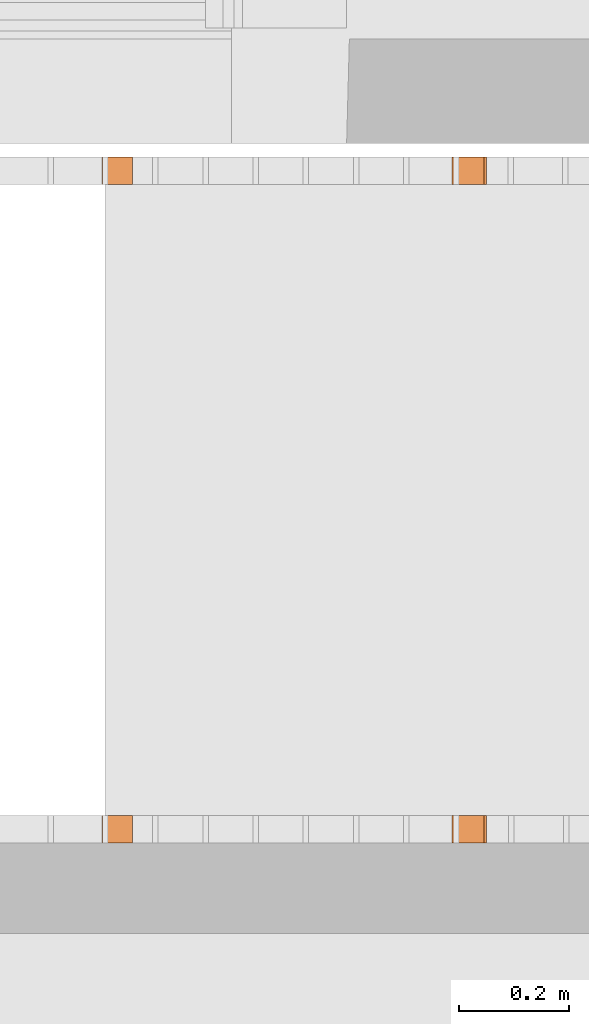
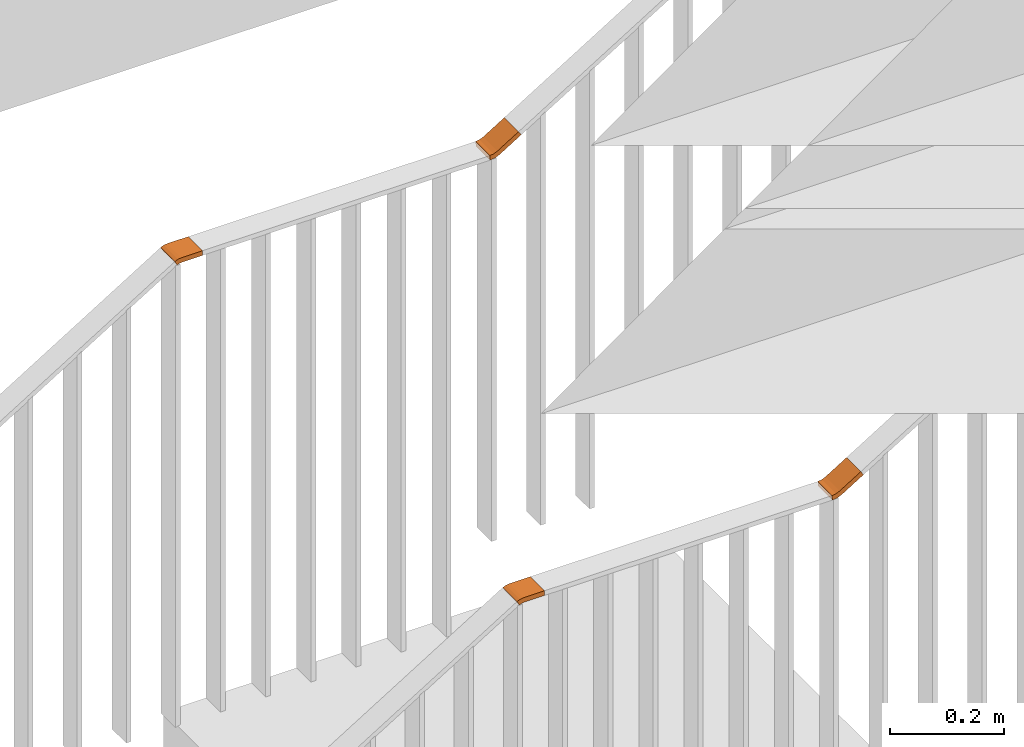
# One storey, part 99 of 100: 4 proxies, 2 elements without a shape of their own.
"""IFC2X3 building model written with IfcOpenShell, lengths in millimetres."""

import ifcopenshell
import ifcopenshell.guid

model = None  # the IFC model being written
_history = None  # IfcOwnerHistory: only IFC2X3 demands one
_inside = {}  # id of a spatial element -> (the spatial element, [elements in it])
_under = {}  # id of a project, library or spatial element -> (it, [spatial elements below it])
_declared = {}  # id of a project -> (the project, [libraries it declares])
_typed = {}  # id of a type object -> (the type object, [elements of that type])
_made_of = {}  # id of a material, layer set ... -> (it, [elements and type objects made of it])


def new_model(schema):
    """Start an empty IFC model of exactly this schema.

    Asked for "IFC4X3", IfcOpenShell would pick the latest addendum, in which some entities
    have other attributes; the version numbers below select the first issue.
    IFC2X3 requires an IfcOwnerHistory on every rooted entity: one is made here for all.
    """
    global model, _history
    if schema == "IFC4X3":
        model = ifcopenshell.file(schema_version=(4, 3, 0, 0))
    else:
        model = ifcopenshell.file(schema=schema)
    _inside.clear()
    _under.clear()
    _declared.clear()
    _typed.clear()
    _made_of.clear()
    _history = None
    if model.schema == "IFC2X3":
        org = make("IfcOrganization", Name="unknown")
        user = make(
            "IfcPersonAndOrganization",
            ThePerson=make("IfcPerson", FamilyName="unknown"),
            TheOrganization=org,
        )
        app = make(
            "IfcApplication",
            ApplicationDeveloper=org,
            Version="unknown",
            ApplicationFullName="unknown",
            ApplicationIdentifier="unknown",
        )
        _history = make(
            "IfcOwnerHistory",
            OwningUser=user,
            OwningApplication=app,
            ChangeAction="ADDED",
            CreationDate=0,
        )
    return model


def make(cls, **values):
    """One entity of the class cls with the attributes given. An attribute that is None is left unset."""
    return model.create_entity(
        cls, **{name: value for name, value in values.items() if value is not None}
    )


def entity(cls, *values):
    """Any entity or typed value of the class cls, its attributes in the order of the schema. None: left unset."""
    e = model.create_entity(cls)
    for i, value in enumerate(values):
        if value is not None:
            e[i] = value
    return e


def rooted(cls, **values):
    """An entity with a GlobalId (a new one), such as an element, a storey or a relation."""
    return make(cls, GlobalId=ifcopenshell.guid.new(), OwnerHistory=_history, **values)


def si_unit(unit_type, name, prefix=None):
    """IfcSIUnit, for example si_unit("LENGTHUNIT", "METRE", prefix="MILLI")."""
    return make("IfcSIUnit", UnitType=unit_type, Prefix=prefix, Name=name)


def converted_unit(unit_type, name, factor, base, dimensions=None, offset=None):
    """IfcConversionBasedUnit, such as the inch: factor (a typed value) times the base unit."""
    return make(
        "IfcConversionBasedUnit"
        if offset is None
        else "IfcConversionBasedUnitWithOffset",
        ConversionOffset=offset,
        Dimensions=None
        if dimensions is None
        else entity("IfcDimensionalExponents", *dimensions),
        UnitType=unit_type,
        Name=name,
        ConversionFactor=make(
            "IfcMeasureWithUnit", ValueComponent=factor, UnitComponent=base
        ),
    )


def derived_unit(unit_type, elements):
    """IfcDerivedUnit: a product of units, each with its exponent."""
    return make(
        "IfcDerivedUnit",
        Elements=[
            make("IfcDerivedUnitElement", Unit=unit, Exponent=power)
            for unit, power in elements
        ],
        UnitType=unit_type,
    )


def money_unit(currency):
    """IfcMonetaryUnit."""
    return make("IfcMonetaryUnit", Currency=currency)


def assignment(units):
    """IfcUnitAssignment: the units of a project."""
    return None if units is None else make("IfcUnitAssignment", Units=units)


def point(xyz):
    """IfcCartesianPoint."""
    return None if xyz is None else make("IfcCartesianPoint", Coordinates=xyz)


def direction(xyz):
    """IfcDirection."""
    return None if xyz is None else make("IfcDirection", DirectionRatios=xyz)


def frame(location, z_axis=None, x_axis=None):
    """IfcAxis2Placement3D, a coordinate frame: its origin and axes. An axis left out is left unset."""
    return make(
        "IfcAxis2Placement3D",
        Location=point(location),
        Axis=direction(z_axis),
        RefDirection=direction(x_axis),
    )


def origin_with_axes():
    """The frame at (0, 0, 0) with the z axis (0, 0, 1) and the x axis (1, 0, 0) written out."""
    return frame((0.0, 0.0, 0.0), z_axis=(0.0, 0.0, 1.0), x_axis=(1.0, 0.0, 0.0))


def place(relative_to, where):
    """IfcLocalPlacement: puts the frame where relative to a parent placement (None: the world)."""
    return make(
        "IfcLocalPlacement", PlacementRelTo=relative_to, RelativePlacement=where
    )


def context(
    kind, dimensions, precision=None, world=None, true_north=None, identifier=None
):
    """IfcGeometricRepresentationContext, for example the 3D "Model" context."""
    return make(
        "IfcGeometricRepresentationContext",
        ContextIdentifier=identifier,
        ContextType=kind,
        CoordinateSpaceDimension=dimensions,
        Precision=precision,
        WorldCoordinateSystem=world,
        TrueNorth=true_north,
    )


def subcontext(parent, identifier, kind, view, scale=None):
    """IfcGeometricRepresentationSubContext, for example "Body" below "Model"."""
    return make(
        "IfcGeometricRepresentationSubContext",
        ContextIdentifier=identifier,
        ContextType=kind,
        ParentContext=parent,
        TargetScale=scale,
        TargetView=view,
    )


def project(units=None, contexts=None):
    """IfcProject with its units and contexts."""
    return rooted(
        "IfcProject",
        Name="project",
        RepresentationContexts=contexts,
        UnitsInContext=assignment(units),
    )


def spatial(cls, under=None, at=None, **own):
    """A site, building, storey or space (cls), placed at a placement, below another one or the project."""
    s = rooted(cls, ObjectPlacement=at, **own)
    if under is not None:
        _under.setdefault(under.id(), (under, []))[1].append(s)
    return s


def faces_of(points, faces, orient=None, outer=None):
    """IfcFace entities. A face is a list of loops; a loop is a list of indices into points, from 0.

    orient and outer hold one flag for each loop. By default every Orientation is true, the
    first loop of a face is its IfcFaceOuterBound and the others are IfcFaceBound.
    """
    made = []
    for i, loops in enumerate(faces):
        bounds = []
        for j, loop in enumerate(loops):
            is_outer = j == 0 if outer is None else outer[i][j]
            bounds.append(
                make(
                    "IfcFaceOuterBound" if is_outer else "IfcFaceBound",
                    Bound=make("IfcPolyLoop", Polygon=[points[k] for k in loop]),
                    Orientation=True if orient is None else orient[i][j],
                )
            )
        made.append(make("IfcFace", Bounds=bounds))
    return made


def faceted_brep(points, faces, orient=None, outer=None, voids=None):
    """IfcFacetedBrep: a solid bounded by flat faces; with voids (closed shells), ...WithVoids."""
    shared = [point(p) for p in points]
    hull = make("IfcClosedShell", CfsFaces=faces_of(shared, faces, orient, outer))
    if voids is None:
        return make("IfcFacetedBrep", Outer=hull)
    return make(
        "IfcFacetedBrepWithVoids",
        Outer=hull,
        Voids=[
            make(cls, CfsFaces=faces_of(shared, fs, o, b)) for cls, fs, o, b in voids
        ],
    )


def shape(context_of_items, identifier, shape_type, items):
    """IfcShapeRepresentation: the items that make up one representation, for example the "Body"."""
    return make(
        "IfcShapeRepresentation",
        ContextOfItems=context_of_items,
        RepresentationIdentifier=identifier,
        RepresentationType=shape_type,
        Items=items,
    )


def material(Name=None, Category=None):
    """IfcMaterial."""
    return make("IfcMaterial", Name=Name, Category=Category)


def made_of(thing, what):
    """Note that an element or type object is made of a material, layer set ...; save() writes the relation."""
    if what is not None:
        _made_of.setdefault(what.id(), (what, []))[1].append(thing)
    return thing


def type_object(cls, material=None, **own):
    """A type object (cls), such as IfcWallType, which elements share."""
    return made_of(rooted(cls, **own), material)


def element(
    cls,
    number,
    at=None,
    inside=None,
    cuts=None,
    type_object=None,
    material=None,
    context=None,
    identifier="Body",
    shape_type=None,
    held_by="IfcProductDefinitionShape",
    body=None,
    shapes=None,
    **own,
):
    """One element of the class cls, such as IfcWall. Its Tag is "e" and its number.

    at: its placement. inside: the storey or other place that contains it. cuts: it is an
    opening in that element (IfcRelVoidsElement). A single representation is given by context,
    identifier, shape_type and body (its items); several are given by shapes. held_by: the class
    of the entity that holds the representations. save() writes the other relations.
    """
    e = rooted(cls, Tag="e%d" % number, ObjectPlacement=at, **own)
    if body is not None:
        shapes = [shape(context, identifier, shape_type, body)]
    if shapes is not None:
        e.Representation = make(held_by, Representations=shapes)
    if inside is not None:
        _inside.setdefault(inside.id(), (inside, []))[1].append(e)
    if cuts is not None:
        rooted(
            "IfcRelVoidsElement", RelatingBuildingElement=cuts, RelatedOpeningElement=e
        )
    if type_object is not None:
        _typed.setdefault(type_object.id(), (type_object, []))[1].append(e)
    return made_of(e, material)


def aggregate(whole, parts):
    """IfcRelAggregates: a whole, such as a stair, and the parts it consists of."""
    return rooted("IfcRelAggregates", RelatingObject=whole, RelatedObjects=parts)


def save(model, path):
    """Write the relations noted so far, then the file.

    IfcRelAggregates (storeys below a building ...), IfcRelContainedInSpatialStructure (elements
    in a storey), IfcRelDefinesByType, IfcRelAssociatesMaterial and IfcRelDeclares: one each for
    every whole, place, type object, material and project.
    """
    for whole, parts in _under.values():
        aggregate(whole, parts)
    for where, things in _inside.values():
        rooted(
            "IfcRelContainedInSpatialStructure",
            RelatedElements=things,
            RelatingStructure=where,
        )
    for kind, things in _typed.values():
        rooted("IfcRelDefinesByType", RelatedObjects=things, RelatingType=kind)
    for what, things in _made_of.values():
        rooted("IfcRelAssociatesMaterial", RelatedObjects=things, RelatingMaterial=what)
    for by, libraries in _declared.values():
        rooted("IfcRelDeclares", RelatingContext=by, RelatedDefinitions=libraries)
    model.write(path)


model = new_model("IFC2X3")

# Units and contexts
model_context = context("Model", 3, precision=0.01, world=origin_with_axes(), true_north=direction((0.0, 1.0)))
body_context = subcontext(model_context, "Body", "Model", "MODEL_VIEW")
ifc_project = project(units=[si_unit("LENGTHUNIT", "METRE", prefix="MILLI"), si_unit("AREAUNIT", "SQUARE_METRE"), si_unit("VOLUMEUNIT", "CUBIC_METRE"), converted_unit("PLANEANGLEUNIT", "DEGREE", entity("IfcPlaneAngleMeasure", 0.0174532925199), si_unit("PLANEANGLEUNIT", "RADIAN"), dimensions=[0, 0, 0, 0, 0, 0, 0]), si_unit("SOLIDANGLEUNIT", "STERADIAN"), money_unit("EUR"), converted_unit("TIMEUNIT", "Year", entity("IfcTimeMeasure", 31556926.0), si_unit("TIMEUNIT", "SECOND"), dimensions=[0, 0, 1, 0, 0, 0, 0]), si_unit("MASSUNIT", "GRAM", prefix="KILO"), si_unit("THERMODYNAMICTEMPERATUREUNIT", "DEGREE_CELSIUS"), si_unit("LUMINOUSINTENSITYUNIT", "LUMEN"), si_unit("ENERGYUNIT", "JOULE", prefix="MEGA"), derived_unit("THERMALCONDUCTANCEUNIT", [(si_unit("POWERUNIT", "WATT"), 1), (si_unit("LENGTHUNIT", "METRE"), -1), (si_unit("THERMODYNAMICTEMPERATUREUNIT", "KELVIN"), -1)]), derived_unit("SPECIFICHEATCAPACITYUNIT", [(si_unit("ENERGYUNIT", "JOULE"), 1), (si_unit("MASSUNIT", "GRAM", prefix="KILO"), -1), (si_unit("THERMODYNAMICTEMPERATUREUNIT", "KELVIN"), -1)]), derived_unit("MASSDENSITYUNIT", [(si_unit("MASSUNIT", "GRAM", prefix="KILO"), 1), (si_unit("VOLUMEUNIT", "CUBIC_METRE"), -1)])], contexts=[model_context])

# Site, building, storey
site_placement = place(None, origin_with_axes())
site = spatial("IfcSite", under=ifc_project, at=site_placement, Name="Politse- ja Piirivalveameti ning Päästeameti ühishoone", CompositionType="ELEMENT")
building_placement = place(site_placement, origin_with_axes())
building = spatial("IfcBuilding", under=site, at=building_placement, Name="Politse- ja Piirivalveameti ning Päästeameti ühishoone", CompositionType="ELEMENT")
storey_placement = place(building_placement, frame((0.0, 0.0, 3800.0), z_axis=(0.0, 0.0, 1.0), x_axis=(1.0, 0.0, 0.0)))
storey = spatial("IfcBuildingStorey", under=building, at=storey_placement, Name="Teine korrus", CompositionType="ELEMENT", Elevation=3800.0)

# Railing, proxies
railing_type = type_object("IfcRailingType", Name="Railing Type", PredefinedType="NOTDEFINED")
railing_1_placement = place(storey_placement, frame((18400.0260184, 11585.0198611, -3800.0), z_axis=(0.0, 0.0, 1.0), x_axis=(1.0, 0.0, 0.0)))
railing_1 = element("IfcRailing", 1, at=railing_1_placement, inside=storey, type_object=railing_type, Name="TREPIPIIRE 6", PredefinedType="NOTDEFINED")
ifc_material = material(Name="Teras - Konstruktsioon")
building_element_proxy_type = type_object("IfcBuildingElementProxyType", Name="IfcBuildingElementProxy", PredefinedType="NOTDEFINED")
proxy_1_placement = place(railing_1_placement, origin_with_axes())
proxy_1 = element("IfcBuildingElementProxy", 2, at=proxy_1_placement, type_object=building_element_proxy_type, material=ifc_material, Name="Piirde ülemise osa ühendus - 001", context=body_context, shape_type="Brep", body=[
    faceted_brep([(3130.0, -50.0, 2890.0), (3130.0, -50.0, 2900.0), (3087.09072183, -50.0, 2900.0), (3080.26907787, -50.0, 2899.05130295), (3073.9651678, -50.0, 2896.2772139), (3078.62641231, -50.0, 2887.40299831), (3083.02399645, -50.0, 2889.33819248), (3087.78274982, -50.0, 2890.0), (3130.0, 0.0, 2900.0), (3130.0, 0.0, 2890.0), (3087.09072183, 0.0, 2900.0), (3080.26907787, 0.0, 2899.05130295), (3073.9651678, 0.0, 2896.2772139), (3078.62641231, 0.0, 2887.40299831), (3083.02399645, 0.0, 2889.33819248), (3087.78274982, 0.0, 2890.0)], [[[0, 1, 2, 3, 4, 5, 6, 7]], [[8, 1, 0, 9]], [[1, 8, 10, 2]], [[3, 2, 10, 11]], [[4, 3, 11, 12]], [[12, 13, 5, 4]], [[13, 14, 6, 5]], [[14, 15, 7, 6]], [[9, 0, 7, 15]], [[8, 9, 15, 14, 13, 12, 11, 10]]]),
])
proxy_2_placement = place(railing_1_placement, origin_with_axes())
proxy_2 = element("IfcBuildingElementProxy", 3, at=proxy_2_placement, type_object=building_element_proxy_type, material=ifc_material, Name="Piirde ülemise osa ühendus - 001", context=body_context, shape_type="Brep", body=[
    faceted_brep([(3775.25022161, 0.0, 2922.33327028), (3775.25022161, -50.0, 2922.33327028), (3731.75196634, -50.0, 2895.49993099), (3731.75196634, 0.0, 2895.49993099), (3770.0, -50.0, 2930.84415584), (3770.0, 0.0, 2930.84415584), (3727.09072183, -50.0, 2904.37414658), (3719.68384268, -50.0, 2901.11468664), (3711.66864391, -50.0, 2900.0), (3712.3606719, -50.0, 2890.0), (3722.43876126, -50.0, 2891.40157617), (3722.43876126, 0.0, 2891.40157617), (3712.3606719, 0.0, 2890.0), (3711.66864391, 0.0, 2900.0), (3719.68384268, 0.0, 2901.11468664), (3727.09072183, 0.0, 2904.37414658)], [[[0, 1, 2, 3]], [[4, 1, 0, 5]], [[1, 4, 6, 7, 8, 9, 10, 2]], [[11, 3, 2, 10]], [[5, 0, 3, 11, 12, 13, 14, 15]], [[4, 5, 15, 6]], [[7, 6, 15, 14]], [[8, 7, 14, 13]], [[13, 12, 9, 8]], [[12, 11, 10, 9]]]),
])
aggregate(railing_1, [proxy_1, proxy_2])

railing_2_placement = place(storey_placement, frame((18400.0260184, 12785.0198611, -3800.0), z_axis=(0.0, 0.0, 1.0), x_axis=(1.0, 0.0, 0.0)))
railing_2 = element("IfcRailing", 4, at=railing_2_placement, inside=storey, type_object=railing_type, Name="TREPIPIIRE 7", PredefinedType="NOTDEFINED")
proxy_3_placement = place(railing_2_placement, origin_with_axes())
proxy_3 = element("IfcBuildingElementProxy", 5, at=proxy_3_placement, type_object=building_element_proxy_type, material=ifc_material, Name="Piirde ülemise osa ühendus - 001", context=body_context, shape_type="Brep", body=[
    faceted_brep([(3130.0, -50.0, 2890.0), (3130.0, -50.0, 2900.0), (3087.09072183, -50.0, 2900.0), (3080.26907787, -50.0, 2899.05130295), (3073.9651678, -50.0, 2896.2772139), (3078.62641231, -50.0, 2887.40299831), (3083.02399645, -50.0, 2889.33819248), (3087.78274982, -50.0, 2890.0), (3130.0, 0.0, 2900.0), (3130.0, 0.0, 2890.0), (3087.09072183, 0.0, 2900.0), (3080.26907787, 0.0, 2899.05130295), (3073.9651678, 0.0, 2896.2772139), (3078.62641231, 0.0, 2887.40299831), (3083.02399645, 0.0, 2889.33819248), (3087.78274982, 0.0, 2890.0)], [[[0, 1, 2, 3, 4, 5, 6, 7]], [[8, 1, 0, 9]], [[1, 8, 10, 2]], [[3, 2, 10, 11]], [[4, 3, 11, 12]], [[12, 13, 5, 4]], [[13, 14, 6, 5]], [[14, 15, 7, 6]], [[9, 0, 7, 15]], [[8, 9, 15, 14, 13, 12, 11, 10]]]),
])
proxy_4_placement = place(railing_2_placement, origin_with_axes())
proxy_4 = element("IfcBuildingElementProxy", 6, at=proxy_4_placement, type_object=building_element_proxy_type, material=ifc_material, Name="Piirde ülemise osa ühendus - 001", context=body_context, shape_type="Brep", body=[
    faceted_brep([(3775.25022161, 0.0, 2922.33327028), (3775.25022161, -50.0, 2922.33327028), (3731.75196634, -50.0, 2895.49993099), (3731.75196634, 0.0, 2895.49993099), (3770.0, -50.0, 2930.84415584), (3770.0, 0.0, 2930.84415584), (3727.09072183, -50.0, 2904.37414658), (3719.68384268, -50.0, 2901.11468664), (3711.66864391, -50.0, 2900.0), (3712.3606719, -50.0, 2890.0), (3722.43876126, -50.0, 2891.40157617), (3722.43876126, 0.0, 2891.40157617), (3712.3606719, 0.0, 2890.0), (3711.66864391, 0.0, 2900.0), (3719.68384268, 0.0, 2901.11468664), (3727.09072183, 0.0, 2904.37414658)], [[[0, 1, 2, 3]], [[4, 1, 0, 5]], [[1, 4, 6, 7, 8, 9, 10, 2]], [[11, 3, 2, 10]], [[5, 0, 3, 11, 12, 13, 14, 15]], [[4, 5, 15, 6]], [[7, 6, 15, 14]], [[8, 7, 14, 13]], [[13, 12, 9, 8]], [[12, 11, 10, 9]]]),
])
aggregate(railing_2, [proxy_3, proxy_4])

save(model, "model.ifc")
